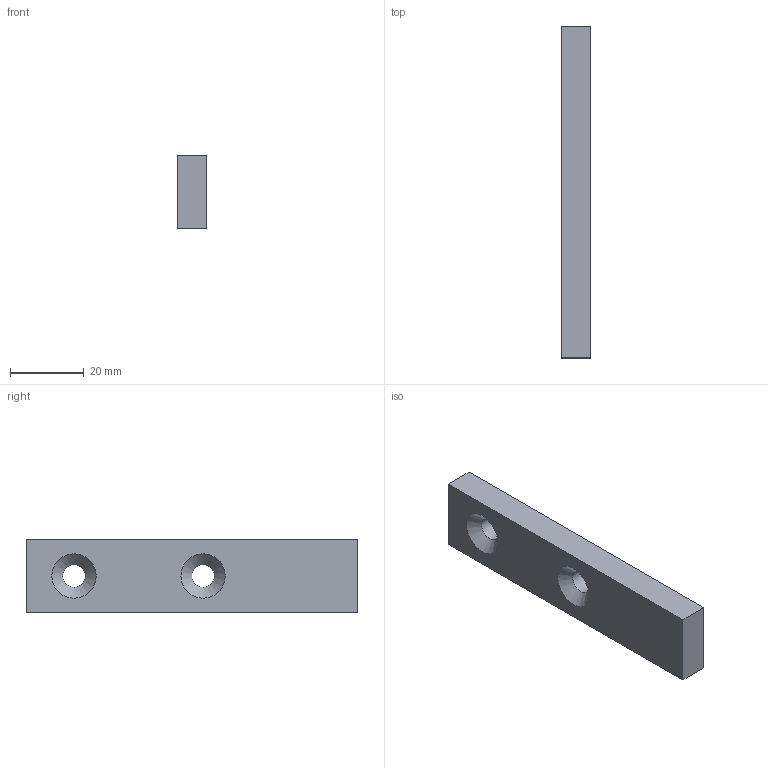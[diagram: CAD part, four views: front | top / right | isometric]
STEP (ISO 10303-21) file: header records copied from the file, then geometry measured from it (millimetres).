
FILE_DESCRIPTION(/* description */ (''),/* implementation_level */ '2;1');
FILE_NAME(/* name */ 'C:\Users\Apardo\Documents\Proyectos\Dietrich\Proyecto 1\PLATE ROLLING MACHINE\STEP\3.2 position 1B.stp',/* time_stamp */ '2020-11-03T20:38:05-04:00',/* author */ ('Apardo'),/* organization */ ('26'),/* preprocessor_version */ 'ST-DEVELOPER v18',/* originating_system */ 'Autodesk Inventor 2020',/* authorisation */ '');
FILE_SCHEMA (('AUTOMOTIVE_DESIGN { 1 0 10303 214 3 1 1 }'));
Length unit declared in the file: millimetre
Products named in the file (1): position 1B
Bounding box: 8 x 90 x 20 mm (x, y, z)
Volume: 13702.1 mm3; surface area: 5506.6 mm2
Topology: 1 solids, 1 shells, 10 faces, 26 edges, 18 vertices
Faces by surface type: plane 6, cone 2, cylinder 2
Full cylindrical faces by diameter (mm): 6.2 x2
Entity records: 365 total; most frequent: DIRECTION 58, CARTESIAN_POINT 55, ORIENTED_EDGE 52, EDGE_CURVE 26, AXIS2_PLACEMENT_3D 21, VERTEX_POINT 18, LINE 16, VECTOR 16
